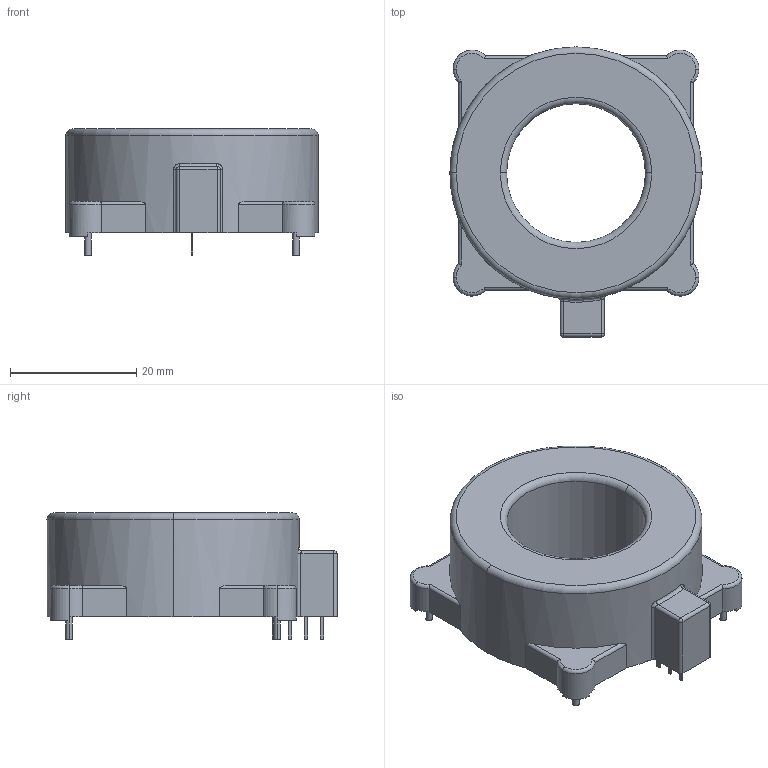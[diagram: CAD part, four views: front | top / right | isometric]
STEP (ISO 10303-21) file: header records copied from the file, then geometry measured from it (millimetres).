
FILE_DESCRIPTION(('CoCreate Modeling STEP Export'),'2;1');
FILE_NAME('HTFS_XXX-P_SP2 series_blackbox.stp','2013-10-18T20:25:16',(''),(''),'CoCreate Modeling STEP processor for AP214 (Solid Model)','CoCreate Modeling 17.00A 17-Jun-2010 (C) Parametric Technology GmbH','');
FILE_SCHEMA(('AUTOMOTIVE_DESIGN { 1 0 10303 214 1 1 1 1 }'));
Length unit declared in the file: millimetre
Products named in the file (2): HTFS_xxx-P_SP2
Assembly tree (1 placements, depth 2):
  HTFS_xxx-P_SP2
    HTFS_xxx-P_SP2
Bounding box: 40 x 46 x 20 mm (x, y, z)
Volume: 15206.9 mm3; surface area: 5874.8 mm2
Topology: 1 solids, 1 shells, 148 faces, 364 edges, 226 vertices
Faces by surface type: plane 66, cylinder 55, torus 20, bspline 5, sphere 2
Entity records: 6175 total; most frequent: CARTESIAN_POINT 1839, ORIENTED_EDGE 724, DIRECTION 609, EDGE_CURVE 362, VERTEX_POINT 226, AXIS2_PLACEMENT_3D 208, VECTOR 193, LINE 193
